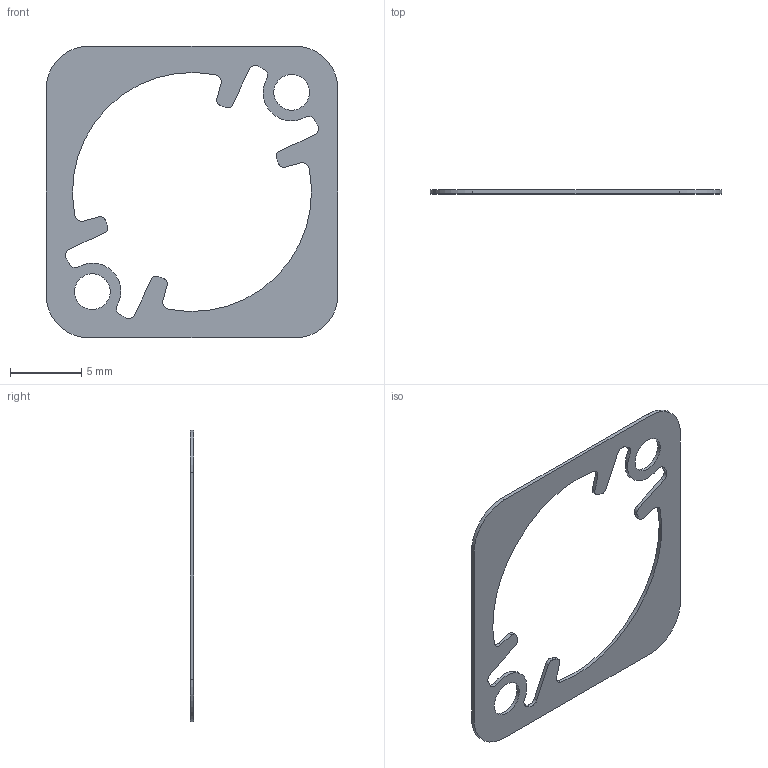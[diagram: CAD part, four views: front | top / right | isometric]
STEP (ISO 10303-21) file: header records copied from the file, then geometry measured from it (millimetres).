
FILE_DESCRIPTION(/* description */ (''),/* implementation_level */ '2;1');
FILE_NAME(/* name */ 'C:\Users\strothej\Documents\ActualDocuments\MicroscopeParts\TwoPhotonSystem\ScanningMechanics\v28\Drawings\Collection_Filter_PMT_Clip.stp',/* time_stamp */ '2017-06-08T11:51:02-07:00',/* author */ ('strothej'),/* organization */ (''),/* preprocessor_version */ 'ST-DEVELOPER v16.1',/* originating_system */ 'Autodesk Inventor 2016',/* authorisation */ '');
FILE_SCHEMA (('AUTOMOTIVE_DESIGN { 1 0 10303 214 3 1 1 }'));
Length unit declared in the file: millimetre
Products named in the file (1): Collection_Filter_PMT_Clip
Bounding box: 20.5 x 0.26 x 20.5 mm (x, y, z)
Volume: 47.7 mm3; surface area: 411.9 mm2
Topology: 1 solids, 1 shells, 52 faces, 152 edges, 102 vertices
Faces by surface type: cylinder 38, plane 14
Full cylindrical faces by diameter (mm): 2.5 x2
Entity records: 1776 total; most frequent: DIRECTION 330, CARTESIAN_POINT 301, ORIENTED_EDGE 296, EDGE_CURVE 148, AXIS2_PLACEMENT_3D 129, VERTEX_POINT 100, CIRCLE 76, LINE 72
